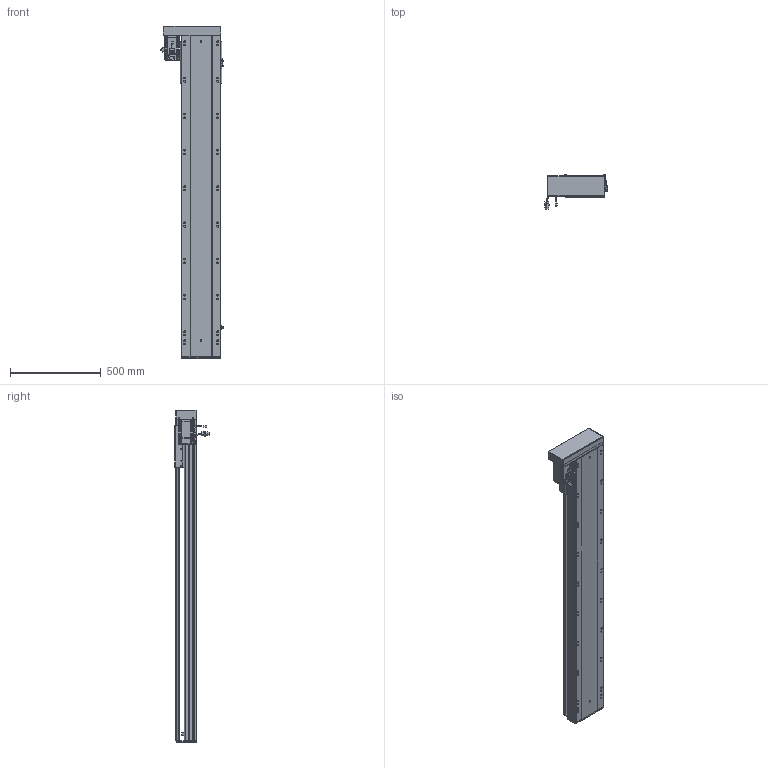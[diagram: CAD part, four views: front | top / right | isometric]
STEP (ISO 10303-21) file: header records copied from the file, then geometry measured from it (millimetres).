
FILE_DESCRIPTION (( 'STEP AP203' ), '1' );
FILE_NAME ('RY220-L2525-300-LK.SLDASM_1450.step', '2022-07-04T01:47:24', ( '' ), ( '' ), 'SwSTEP 2.0', 'SolidWorks 2016', '' );
FILE_SCHEMA (( 'CONFIG_CONTROL_DESIGN' ));
Length unit declared in the file: millimetre
Products named in the file (12): RY220-俋离672覜茼んえ; RY220-300-蛌殏奻裔啣_1450; 滅袉蝶18-15; 覜茼ん672; RY220-L2525-300-LK.SLDASM_1450; RY220左右折电机安装板; 怢湛750W_ECMA-CX0807ES; RY220綴裔啣; RY220酘衵殏萇儂欶; 滅袉蝶18-10; RY220蛌殏菁釱-300_1450; RY220半封闭25-32螺母铝滑块
Assembly tree (15 placements, depth 2):
  RY220-L2525-300-LK.SLDASM_1450
    RY220蛌殏菁釱-300_1450
    RY220-300-蛌殏奻裔啣_1450
    怢湛750W_ECMA-CX0807ES
    滅袉蝶18-10  x2
    RY220-俋离672覜茼んえ
    覜茼ん672  x3
    RY220綴裔啣
    RY220半封闭25-32螺母铝滑块
    滅袉蝶18-15  x2
    RY220左右折电机安装板
    RY220酘衵殏萇儂欶
Bounding box: 347.44 x 189.27 x 1832 mm (x, y, z)
Volume: 14469169.3 mm3; surface area: 4327653.6 mm2
Topology: 16 solids, 16 shells, 2253 faces, 6224 edges, 3921 vertices
Faces by surface type: cylinder 1037, plane 896, cone 250, bspline 44, sphere 16, torus 10
Entity records: 74541 total; most frequent: CARTESIAN_POINT 21581, ORIENTED_EDGE 10976, DIRECTION 10392, EDGE_CURVE 5488, AXIS2_PLACEMENT_3D 3679, VERTEX_POINT 3577, VECTOR 3034, LINE 3034
